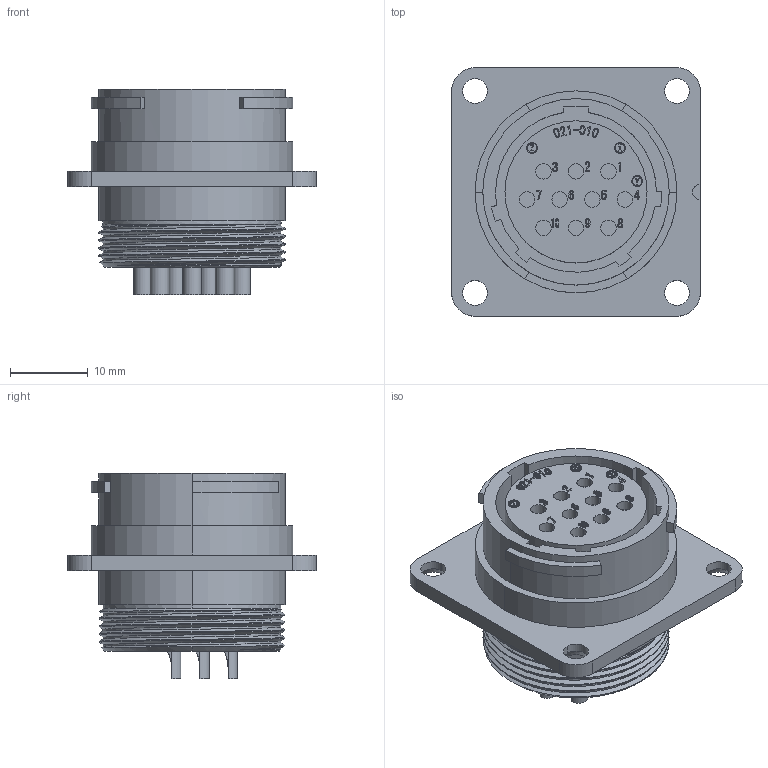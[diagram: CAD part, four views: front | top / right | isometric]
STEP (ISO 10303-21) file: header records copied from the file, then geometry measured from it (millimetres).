
FILE_DESCRIPTION (( 'STEP AP203' ), '1' );
FILE_NAME ('WEBR2110F-D.STEP', '2018-10-24T10:42:42', ( '' ), ( '' ), 'SwSTEP 2.0', 'SolidWorks 2018', '' );
FILE_SCHEMA (( 'CONFIG_CONTROL_DESIGN' ));
Length unit declared in the file: millimetre
Products named in the file (1): WEBR2110F-D
Bounding box: 32 x 32 x 26.4 mm (x, y, z)
Volume: 9601.4 mm3; surface area: 6756.9 mm2
Topology: 1 solids, 1 shells, 848 faces, 2234 edges, 1455 vertices
Faces by surface type: bspline 357, plane 312, cylinder 146, cone 33
Entity records: 39552 total; most frequent: CARTESIAN_POINT 20973, ORIENTED_EDGE 4428, DIRECTION 2689, EDGE_CURVE 2214, VERTEX_POINT 1455, VECTOR 1195, LINE 1195, EDGE_LOOP 943
